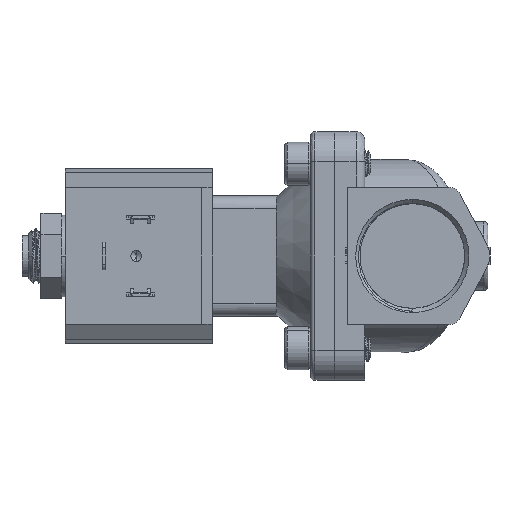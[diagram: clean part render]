
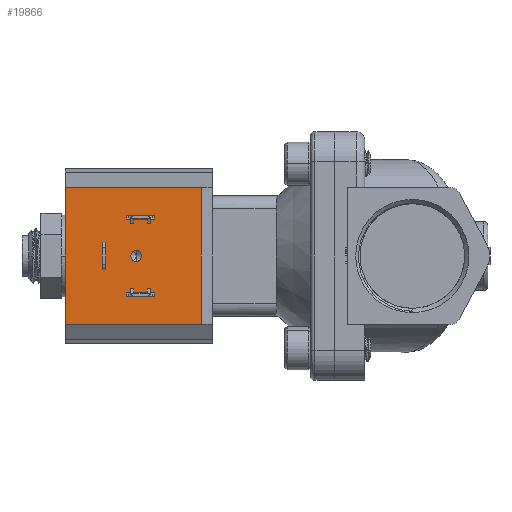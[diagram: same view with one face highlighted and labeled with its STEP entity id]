
A CAD part, left-side view. The second image highlights one B-rep face of the part: STEP entity #19866.
In plain terms, the highlighted planar face has unit normal (-1, 0, 0).
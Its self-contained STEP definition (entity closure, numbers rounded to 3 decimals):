
#138 = VERTEX_POINT ( 'NONE', #19226 ) ;
#264 = LINE ( 'NONE', #5750, #10860 ) ;
#502 = CARTESIAN_POINT ( 'NONE',  ( -7.443, 31.04, -15.875 ) ) ;
#608 = VERTEX_POINT ( 'NONE', #17371 ) ;
#616 = LINE ( 'NONE', #9820, #20379 ) ;
#666 = DIRECTION ( 'NONE',  ( 0., 0., 1. ) ) ;
#728 = DIRECTION ( 'NONE',  ( 0., 1., 0. ) ) ;
#1236 = CARTESIAN_POINT ( 'NONE',  ( -7.443, 53.316, -3.213 ) ) ;
#1315 = PLANE ( 'NONE',  #13878 ) ;
#1546 = FACE_BOUND ( 'NONE', #21214, .T. ) ;
#1596 = VECTOR ( 'NONE', #2669, 1000. ) ;
#1801 = LINE ( 'NONE', #12882, #12376 ) ;
#2179 = VERTEX_POINT ( 'NONE', #3558 ) ;
#2338 = CARTESIAN_POINT ( 'NONE',  ( -7.443, 48.414, 8.611 ) ) ;
#2349 = CARTESIAN_POINT ( 'NONE',  ( -7.443, 48.414, -9.423 ) ) ;
#2382 = CARTESIAN_POINT ( 'NONE',  ( -7.443, 54.129, 3.213 ) ) ;
#2473 = LINE ( 'NONE', #502, #16047 ) ;
#2487 = EDGE_LOOP ( 'NONE', ( #18926, #20240, #13350, #20494 ) ) ;
#2669 = DIRECTION ( 'NONE',  ( 0., 1., 0. ) ) ;
#2902 = DIRECTION ( 'NONE',  ( 0., -1., 0. ) ) ;
#3083 = CARTESIAN_POINT ( 'NONE',  ( -7.443, 54.129, -3.213 ) ) ;
#3096 = CARTESIAN_POINT ( 'NONE',  ( -7.443, 53.316, 3.213 ) ) ;
#3558 = CARTESIAN_POINT ( 'NONE',  ( -7.443, 42.064, 8.611 ) ) ;
#3562 = EDGE_CURVE ( 'NONE', #5342, #2179, #13182, .T. ) ;
#3577 = AXIS2_PLACEMENT_3D ( 'NONE', #9538, #16650, #666 ) ;
#3668 = DIRECTION ( 'NONE',  ( 0., 0., -1. ) ) ;
#4074 = ORIENTED_EDGE ( 'NONE', *, *, #13284, .F. ) ;
#4215 = VECTOR ( 'NONE', #19304, 1000. ) ;
#4237 = DIRECTION ( 'NONE',  ( 0., 0., 1. ) ) ;
#4364 = DIRECTION ( 'NONE',  ( 0., -1., 0. ) ) ;
#4374 = CARTESIAN_POINT ( 'NONE',  ( -7.443, 46.265, -1.264 ) ) ;
#4437 = EDGE_LOOP ( 'NONE', ( #18624, #4652 ) ) ;
#4456 = EDGE_CURVE ( 'NONE', #18937, #138, #11970, .T. ) ;
#4521 = VECTOR ( 'NONE', #9912, 1000. ) ;
#4643 = CARTESIAN_POINT ( 'NONE',  ( -7.443, 62.79, -15.875 ) ) ;
#4652 = ORIENTED_EDGE ( 'NONE', *, *, #21907, .F. ) ;
#4668 = CARTESIAN_POINT ( 'NONE',  ( -7.443, 48.414, -8.611 ) ) ;
#4670 = CARTESIAN_POINT ( 'NONE',  ( -7.443, 46.265, 1.264 ) ) ;
#4821 = ORIENTED_EDGE ( 'NONE', *, *, #7995, .T. ) ;
#5096 = EDGE_CURVE ( 'NONE', #5434, #17394, #13408, .T. ) ;
#5152 = CARTESIAN_POINT ( 'NONE',  ( -7.443, 42.064, -9.423 ) ) ;
#5314 = VERTEX_POINT ( 'NONE', #11497 ) ;
#5342 = VERTEX_POINT ( 'NONE', #17235 ) ;
#5434 = VERTEX_POINT ( 'NONE', #19276 ) ;
#5600 = EDGE_CURVE ( 'NONE', #138, #10604, #21488, .T. ) ;
#5651 = DIRECTION ( 'NONE',  ( 0., 0., 1. ) ) ;
#5750 = CARTESIAN_POINT ( 'NONE',  ( -7.443, 31.04, -15.875 ) ) ;
#6327 = VECTOR ( 'NONE', #14822, 1000. ) ;
#6363 = VECTOR ( 'NONE', #15457, 1000. ) ;
#6381 = DIRECTION ( 'NONE',  ( 0., 0., 1. ) ) ;
#6545 = CARTESIAN_POINT ( 'NONE',  ( -7.443, 48.414, 9.423 ) ) ;
#6598 = EDGE_LOOP ( 'NONE', ( #8458, #9966, #10505, #11078 ) ) ;
#6602 = VERTEX_POINT ( 'NONE', #4670 ) ;
#6667 = DIRECTION ( 'NONE',  ( 0., 0., 1. ) ) ;
#6940 = CARTESIAN_POINT ( 'NONE',  ( -7.443, 46.265, 0. ) ) ;
#7010 = CARTESIAN_POINT ( 'NONE',  ( -7.443, 54.129, 3.213 ) ) ;
#7494 = VERTEX_POINT ( 'NONE', #22476 ) ;
#7995 = EDGE_CURVE ( 'NONE', #17086, #5314, #20413, .T. ) ;
#8032 = EDGE_CURVE ( 'NONE', #17394, #2179, #20966, .T. ) ;
#8220 = AXIS2_PLACEMENT_3D ( 'NONE', #6940, #14506, #5651 ) ;
#8323 = VERTEX_POINT ( 'NONE', #4374 ) ;
#8457 = EDGE_CURVE ( 'NONE', #18937, #13285, #20812, .T. ) ;
#8458 = ORIENTED_EDGE ( 'NONE', *, *, #8032, .T. ) ;
#8478 = LINE ( 'NONE', #1236, #17145 ) ;
#8724 = DIRECTION ( 'NONE',  ( 0., 0., -1. ) ) ;
#9513 = EDGE_CURVE ( 'NONE', #7494, #12177, #17207, .T. ) ;
#9538 = CARTESIAN_POINT ( 'NONE',  ( -7.443, 46.265, 0. ) ) ;
#9560 = ORIENTED_EDGE ( 'NONE', *, *, #13017, .T. ) ;
#9820 = CARTESIAN_POINT ( 'NONE',  ( -7.443, 54.129, -3.213 ) ) ;
#9912 = DIRECTION ( 'NONE',  ( 0., -1., 0. ) ) ;
#9966 = ORIENTED_EDGE ( 'NONE', *, *, #3562, .F. ) ;
#10182 = FACE_OUTER_BOUND ( 'NONE', #19791, .T. ) ;
#10299 = CARTESIAN_POINT ( 'NONE',  ( -7.443, 31.04, -15.875 ) ) ;
#10406 = VERTEX_POINT ( 'NONE', #3096 ) ;
#10409 = FACE_BOUND ( 'NONE', #6598, .T. ) ;
#10505 = ORIENTED_EDGE ( 'NONE', *, *, #19578, .F. ) ;
#10604 = VERTEX_POINT ( 'NONE', #12047 ) ;
#10643 = DIRECTION ( 'NONE',  ( 0., 0., 1. ) ) ;
#10860 = VECTOR ( 'NONE', #10643, 1000. ) ;
#11078 = ORIENTED_EDGE ( 'NONE', *, *, #5096, .T. ) ;
#11120 = EDGE_CURVE ( 'NONE', #13285, #10604, #22648, .T. ) ;
#11497 = CARTESIAN_POINT ( 'NONE',  ( -7.443, 62.79, 15.875 ) ) ;
#11970 = LINE ( 'NONE', #19106, #18573 ) ;
#12047 = CARTESIAN_POINT ( 'NONE',  ( -7.443, 42.064, -8.611 ) ) ;
#12177 = VERTEX_POINT ( 'NONE', #14500 ) ;
#12376 = VECTOR ( 'NONE', #3668, 1000. ) ;
#12775 = VECTOR ( 'NONE', #8724, 1000. ) ;
#12882 = CARTESIAN_POINT ( 'NONE',  ( -7.443, 48.414, 9.423 ) ) ;
#13017 = EDGE_CURVE ( 'NONE', #22013, #10406, #18127, .T. ) ;
#13028 = ORIENTED_EDGE ( 'NONE', *, *, #14352, .F. ) ;
#13182 = LINE ( 'NONE', #2338, #6327 ) ;
#13284 = EDGE_CURVE ( 'NONE', #12177, #10406, #8478, .T. ) ;
#13285 = VERTEX_POINT ( 'NONE', #17341 ) ;
#13350 = ORIENTED_EDGE ( 'NONE', *, *, #4456, .T. ) ;
#13383 = DIRECTION ( 'NONE',  ( 0., 0., 1. ) ) ;
#13408 = LINE ( 'NONE', #6545, #16076 ) ;
#13628 = CIRCLE ( 'NONE', #3577, 1.264 ) ;
#13878 = AXIS2_PLACEMENT_3D ( 'NONE', #10299, #17421, #15902 ) ;
#14041 = EDGE_CURVE ( 'NONE', #6602, #8323, #18269, .T. ) ;
#14352 = EDGE_CURVE ( 'NONE', #608, #22728, #2473, .T. ) ;
#14500 = CARTESIAN_POINT ( 'NONE',  ( -7.443, 53.316, -3.213 ) ) ;
#14506 = DIRECTION ( 'NONE',  ( -1., 0., 0. ) ) ;
#14822 = DIRECTION ( 'NONE',  ( 0., -1., 0. ) ) ;
#14883 = CARTESIAN_POINT ( 'NONE',  ( -7.443, 42.064, 9.423 ) ) ;
#14902 = ORIENTED_EDGE ( 'NONE', *, *, #15399, .F. ) ;
#15269 = CARTESIAN_POINT ( 'NONE',  ( -7.443, 31.04, 15.875 ) ) ;
#15376 = LINE ( 'NONE', #4643, #17923 ) ;
#15399 = EDGE_CURVE ( 'NONE', #22728, #5314, #15376, .T. ) ;
#15457 = DIRECTION ( 'NONE',  ( 0., -1., 0. ) ) ;
#15712 = CARTESIAN_POINT ( 'NONE',  ( -7.443, 42.064, 9.423 ) ) ;
#15902 = DIRECTION ( 'NONE',  ( 0., 0., 1. ) ) ;
#16013 = ORIENTED_EDGE ( 'NONE', *, *, #18915, .T. ) ;
#16047 = VECTOR ( 'NONE', #728, 1000. ) ;
#16076 = VECTOR ( 'NONE', #2902, 1000. ) ;
#16650 = DIRECTION ( 'NONE',  ( -1., 0., 0. ) ) ;
#16713 = ORIENTED_EDGE ( 'NONE', *, *, #23015, .T. ) ;
#17086 = VERTEX_POINT ( 'NONE', #20842 ) ;
#17145 = VECTOR ( 'NONE', #6381, 1000. ) ;
#17207 = LINE ( 'NONE', #3083, #6363 ) ;
#17235 = CARTESIAN_POINT ( 'NONE',  ( -7.443, 48.414, 8.611 ) ) ;
#17309 = FACE_BOUND ( 'NONE', #2487, .T. ) ;
#17341 = CARTESIAN_POINT ( 'NONE',  ( -7.443, 42.064, -9.423 ) ) ;
#17371 = CARTESIAN_POINT ( 'NONE',  ( -7.443, 31.04, -15.875 ) ) ;
#17394 = VERTEX_POINT ( 'NONE', #14883 ) ;
#17421 = DIRECTION ( 'NONE',  ( -1., 0., 0. ) ) ;
#17543 = CARTESIAN_POINT ( 'NONE',  ( -7.443, 62.79, -15.875 ) ) ;
#17652 = FACE_BOUND ( 'NONE', #4437, .T. ) ;
#17665 = CARTESIAN_POINT ( 'NONE',  ( -7.443, 48.414, -9.423 ) ) ;
#17923 = VECTOR ( 'NONE', #13383, 1000. ) ;
#18127 = LINE ( 'NONE', #2382, #18254 ) ;
#18202 = VECTOR ( 'NONE', #6667, 1000. ) ;
#18254 = VECTOR ( 'NONE', #4364, 1000. ) ;
#18269 = CIRCLE ( 'NONE', #8220, 1.264 ) ;
#18573 = VECTOR ( 'NONE', #22850, 1000. ) ;
#18624 = ORIENTED_EDGE ( 'NONE', *, *, #14041, .F. ) ;
#18915 = EDGE_CURVE ( 'NONE', #608, #17086, #264, .T. ) ;
#18926 = ORIENTED_EDGE ( 'NONE', *, *, #11120, .F. ) ;
#18937 = VERTEX_POINT ( 'NONE', #2349 ) ;
#19106 = CARTESIAN_POINT ( 'NONE',  ( -7.443, 48.414, -9.423 ) ) ;
#19226 = CARTESIAN_POINT ( 'NONE',  ( -7.443, 48.414, -8.611 ) ) ;
#19276 = CARTESIAN_POINT ( 'NONE',  ( -7.443, 48.414, 9.423 ) ) ;
#19304 = DIRECTION ( 'NONE',  ( 0., -1., 0. ) ) ;
#19578 = EDGE_CURVE ( 'NONE', #5434, #5342, #1801, .T. ) ;
#19686 = ORIENTED_EDGE ( 'NONE', *, *, #9513, .F. ) ;
#19791 = EDGE_LOOP ( 'NONE', ( #14902, #13028, #16013, #4821 ) ) ;
#19866 = ADVANCED_FACE ( 'Defeatured_0_181', ( #17652, #10409, #10182, #1546, #17309 ), #1315, .T. ) ;
#20240 = ORIENTED_EDGE ( 'NONE', *, *, #8457, .F. ) ;
#20379 = VECTOR ( 'NONE', #4237, 1000. ) ;
#20413 = LINE ( 'NONE', #15269, #1596 ) ;
#20494 = ORIENTED_EDGE ( 'NONE', *, *, #5600, .T. ) ;
#20812 = LINE ( 'NONE', #17665, #4215 ) ;
#20842 = CARTESIAN_POINT ( 'NONE',  ( -7.443, 31.04, 15.875 ) ) ;
#20966 = LINE ( 'NONE', #15712, #12775 ) ;
#21214 = EDGE_LOOP ( 'NONE', ( #4074, #19686, #16713, #9560 ) ) ;
#21488 = LINE ( 'NONE', #4668, #4521 ) ;
#21907 = EDGE_CURVE ( 'NONE', #8323, #6602, #13628, .T. ) ;
#22013 = VERTEX_POINT ( 'NONE', #7010 ) ;
#22476 = CARTESIAN_POINT ( 'NONE',  ( -7.443, 54.129, -3.213 ) ) ;
#22648 = LINE ( 'NONE', #5152, #18202 ) ;
#22728 = VERTEX_POINT ( 'NONE', #17543 ) ;
#22850 = DIRECTION ( 'NONE',  ( 0., 0., 1. ) ) ;
#23015 = EDGE_CURVE ( 'NONE', #7494, #22013, #616, .T. ) ;
